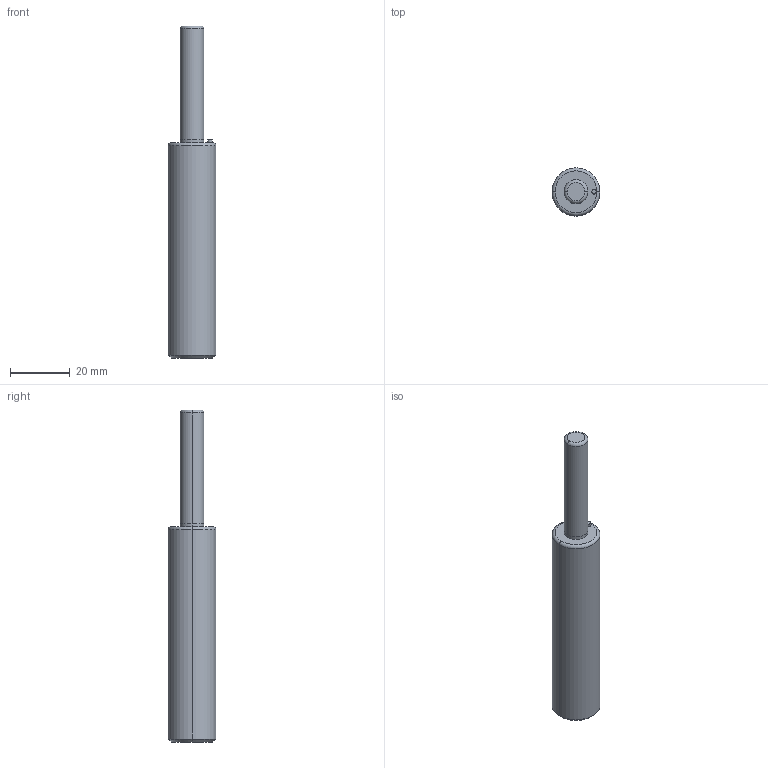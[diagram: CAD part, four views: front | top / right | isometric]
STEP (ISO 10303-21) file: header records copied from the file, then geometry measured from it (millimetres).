
FILE_DESCRIPTION(/* description */ (''),/* implementation_level */ '2;1');
FILE_NAME(/* name */ '3d_mgsc16-38_04563_r00.stp',/* time_stamp */ '2011-01-10T14:13:35+09:00',/* author */ ('MISUMI'),/* organization */ (''),/* preprocessor_version */ 'ST-DEVELOPER v11',/* originating_system */ 'UGS - NX 5.0',/* authorisation */ '');
FILE_SCHEMA (('CONFIG_CONTROL_DESIGN'));
Length unit declared in the file: millimetre
Products named in the file (1): 3d_mgsc16-38_04563_r00
Bounding box: 16 x 16 x 111 mm (x, y, z)
Volume: 16193.1 mm3; surface area: 5102.2 mm2
Topology: 1 solids, 1 shells, 24 faces, 48 edges, 27 vertices
Faces by surface type: cylinder 12, plane 4, torus 4, cone 4
Entity records: 698 total; most frequent: DIRECTION 126, CARTESIAN_POINT 98, ORIENTED_EDGE 92, AXIS2_PLACEMENT_3D 55, EDGE_CURVE 46, CIRCLE 30, EDGE_LOOP 27, VERTEX_POINT 27
